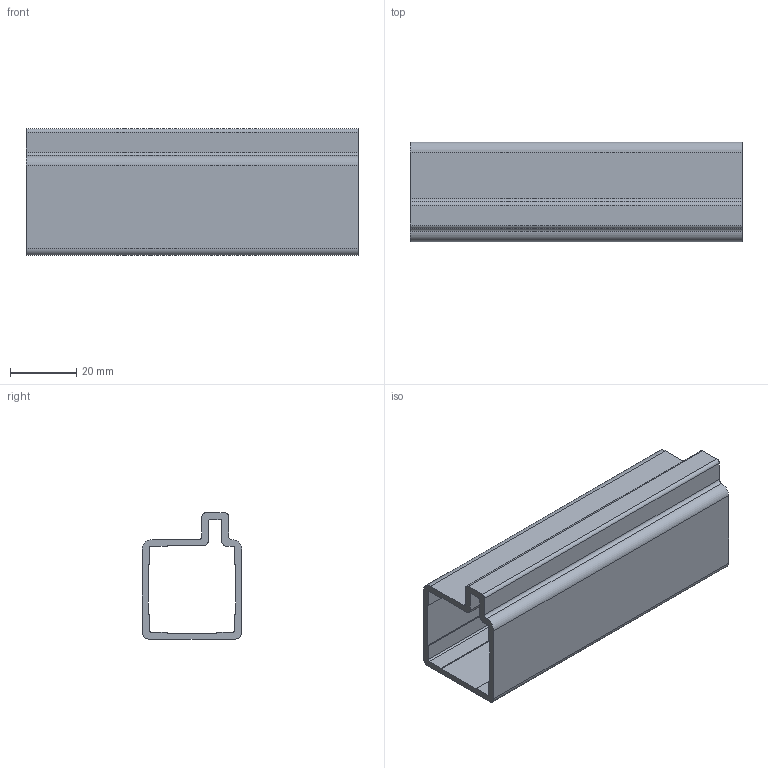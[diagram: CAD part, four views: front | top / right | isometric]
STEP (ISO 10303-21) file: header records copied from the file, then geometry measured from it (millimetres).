
FILE_DESCRIPTION (( 'STEP AP203' ), '1' );
FILE_NAME ('B30040A.STEP', '2017-03-22T12:31:41', ( 'Localadmin' ), ( 'Microsoft' ), 'SwSTEP 2.0', 'SolidWorks 2016', '' );
FILE_SCHEMA (( 'CONFIG_CONTROL_DESIGN' ));
Length unit declared in the file: millimetre
Products named in the file (1): B30040A
Bounding box: 100 x 30 x 38 mm (x, y, z)
Volume: 24248.7 mm3; surface area: 25346.6 mm2
Topology: 1 solids, 1 shells, 47 faces, 135 edges, 90 vertices
Faces by surface type: plane 31, cylinder 16
Entity records: 1622 total; most frequent: CARTESIAN_POINT 273, ORIENTED_EDGE 270, DIRECTION 263, EDGE_CURVE 135, LINE 103, VECTOR 103, VERTEX_POINT 90, AXIS2_PLACEMENT_3D 80
